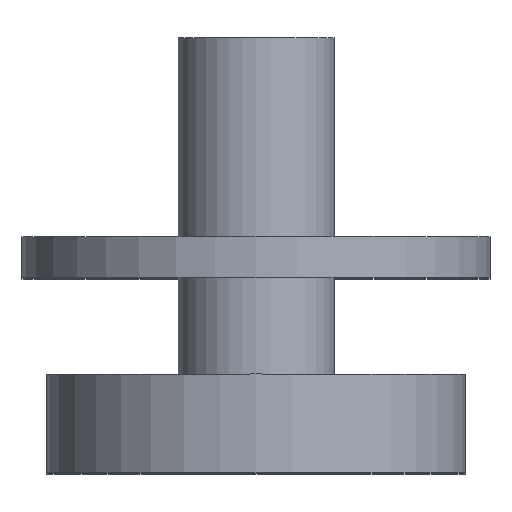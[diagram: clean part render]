
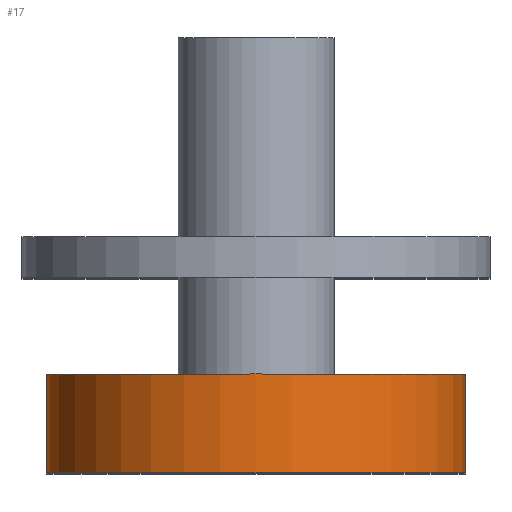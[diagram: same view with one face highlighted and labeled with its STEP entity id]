
A CAD part, top view. The second image highlights one B-rep face of the part: STEP entity #17.
In plain terms, the highlighted cylindrical face has radius 5.1 mm (diameter 10.2 mm), a full revolution.
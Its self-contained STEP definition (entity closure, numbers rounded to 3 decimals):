
#17 = ADVANCED_FACE('',(#18),#31,.T.);
#18 = FACE_BOUND('',#19,.T.);
#19 = EDGE_LOOP('',(#20,#54,#77,#104));
#20 = ORIENTED_EDGE('',*,*,#21,.F.);
#21 = EDGE_CURVE('',#22,#22,#24,.T.);
#22 = VERTEX_POINT('',#23);
#23 = CARTESIAN_POINT('',(5.1,-19.4,65.));
#24 = SURFACE_CURVE('',#25,(#30,#42),.PCURVE_S1.);
#25 = CIRCLE('',#26,5.1);
#26 = AXIS2_PLACEMENT_3D('',#27,#28,#29);
#27 = CARTESIAN_POINT('',(0.,-19.4,65.));
#28 = DIRECTION('',(0.,-1.,0.));
#29 = DIRECTION('',(1.,0.,0.));
#30 = PCURVE('',#31,#36);
#31 = CYLINDRICAL_SURFACE('',#32,5.1);
#32 = AXIS2_PLACEMENT_3D('',#33,#34,#35);
#33 = CARTESIAN_POINT('',(0.,-17.,65.));
#34 = DIRECTION('',(0.,-1.,0.));
#35 = DIRECTION('',(1.,0.,0.));
#36 = DEFINITIONAL_REPRESENTATION('',(#37),#41);
#37 = LINE('',#38,#39);
#38 = CARTESIAN_POINT('',(0.,2.4));
#39 = VECTOR('',#40,1.);
#40 = DIRECTION('',(1.,0.));
#41 = ( GEOMETRIC_REPRESENTATION_CONTEXT(2) 
PARAMETRIC_REPRESENTATION_CONTEXT() REPRESENTATION_CONTEXT('2D SPACE',''
  ) );
#42 = PCURVE('',#43,#48);
#43 = PLANE('',#44);
#44 = AXIS2_PLACEMENT_3D('',#45,#46,#47);
#45 = CARTESIAN_POINT('',(0.,-19.4,65.));
#46 = DIRECTION('',(0.,-1.,0.));
#47 = DIRECTION('',(1.,0.,0.));
#48 = DEFINITIONAL_REPRESENTATION('',(#49),#53);
#49 = CIRCLE('',#50,5.1);
#50 = AXIS2_PLACEMENT_2D('',#51,#52);
#51 = CARTESIAN_POINT('',(0.,0.));
#52 = DIRECTION('',(1.,0.));
#53 = ( GEOMETRIC_REPRESENTATION_CONTEXT(2) 
PARAMETRIC_REPRESENTATION_CONTEXT() REPRESENTATION_CONTEXT('2D SPACE',''
  ) );
#54 = ORIENTED_EDGE('',*,*,#55,.F.);
#55 = EDGE_CURVE('',#56,#22,#58,.T.);
#56 = VERTEX_POINT('',#57);
#57 = CARTESIAN_POINT('',(5.1,-17.,65.));
#58 = SEAM_CURVE('',#59,(#63,#70),.PCURVE_S1.);
#59 = LINE('',#60,#61);
#60 = CARTESIAN_POINT('',(5.1,-17.,65.));
#61 = VECTOR('',#62,1.);
#62 = DIRECTION('',(0.,-1.,0.));
#63 = PCURVE('',#31,#64);
#64 = DEFINITIONAL_REPRESENTATION('',(#65),#69);
#65 = LINE('',#66,#67);
#66 = CARTESIAN_POINT('',(6.283,-0.));
#67 = VECTOR('',#68,1.);
#68 = DIRECTION('',(0.,1.));
#69 = ( GEOMETRIC_REPRESENTATION_CONTEXT(2) 
PARAMETRIC_REPRESENTATION_CONTEXT() REPRESENTATION_CONTEXT('2D SPACE',''
  ) );
#70 = PCURVE('',#31,#71);
#71 = DEFINITIONAL_REPRESENTATION('',(#72),#76);
#72 = LINE('',#73,#74);
#73 = CARTESIAN_POINT('',(0.,-0.));
#74 = VECTOR('',#75,1.);
#75 = DIRECTION('',(0.,1.));
#76 = ( GEOMETRIC_REPRESENTATION_CONTEXT(2) 
PARAMETRIC_REPRESENTATION_CONTEXT() REPRESENTATION_CONTEXT('2D SPACE',''
  ) );
#77 = ORIENTED_EDGE('',*,*,#78,.T.);
#78 = EDGE_CURVE('',#56,#56,#79,.T.);
#79 = SURFACE_CURVE('',#80,(#85,#92),.PCURVE_S1.);
#80 = CIRCLE('',#81,5.1);
#81 = AXIS2_PLACEMENT_3D('',#82,#83,#84);
#82 = CARTESIAN_POINT('',(0.,-17.,65.));
#83 = DIRECTION('',(0.,-1.,0.));
#84 = DIRECTION('',(1.,0.,0.));
#85 = PCURVE('',#31,#86);
#86 = DEFINITIONAL_REPRESENTATION('',(#87),#91);
#87 = LINE('',#88,#89);
#88 = CARTESIAN_POINT('',(0.,0.));
#89 = VECTOR('',#90,1.);
#90 = DIRECTION('',(1.,0.));
#91 = ( GEOMETRIC_REPRESENTATION_CONTEXT(2) 
PARAMETRIC_REPRESENTATION_CONTEXT() REPRESENTATION_CONTEXT('2D SPACE',''
  ) );
#92 = PCURVE('',#93,#98);
#93 = PLANE('',#94);
#94 = AXIS2_PLACEMENT_3D('',#95,#96,#97);
#95 = CARTESIAN_POINT('',(0.,-17.,65.));
#96 = DIRECTION('',(0.,-1.,0.));
#97 = DIRECTION('',(1.,0.,0.));
#98 = DEFINITIONAL_REPRESENTATION('',(#99),#103);
#99 = CIRCLE('',#100,5.1);
#100 = AXIS2_PLACEMENT_2D('',#101,#102);
#101 = CARTESIAN_POINT('',(0.,0.));
#102 = DIRECTION('',(1.,0.));
#103 = ( GEOMETRIC_REPRESENTATION_CONTEXT(2) 
PARAMETRIC_REPRESENTATION_CONTEXT() REPRESENTATION_CONTEXT('2D SPACE',''
  ) );
#104 = ORIENTED_EDGE('',*,*,#55,.T.);
